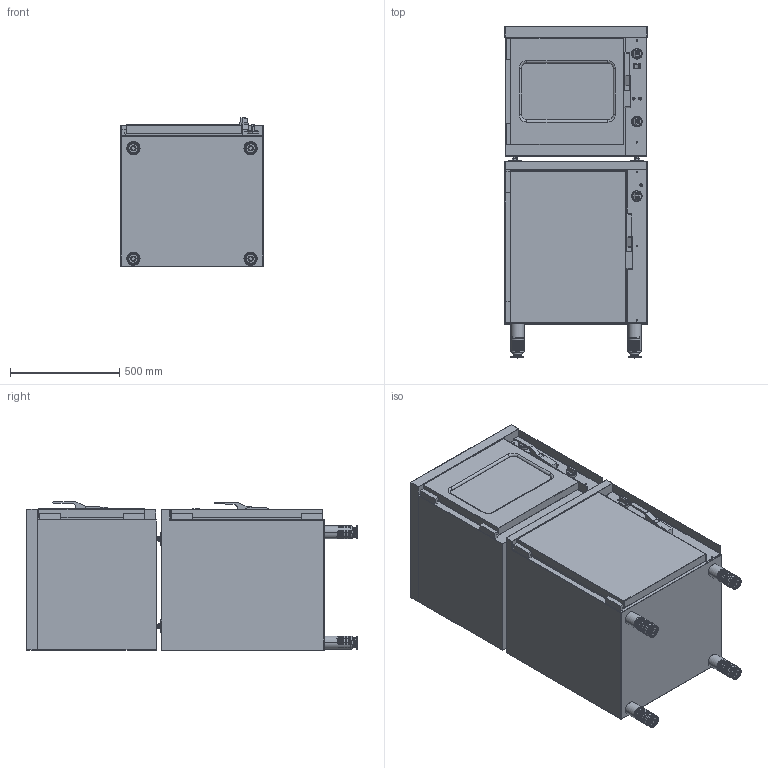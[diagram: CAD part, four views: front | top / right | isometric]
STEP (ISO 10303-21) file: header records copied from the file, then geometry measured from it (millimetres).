
FILE_DESCRIPTION((''),'2;1');
FILE_NAME('CFE606CT_INV_CES_EXPORT_STEP_ASM','2018-01-25T11:46:26',('m.grapin'),(''),'CREO PARAMETRIC BY PTC INC, 2017260','CREO PARAMETRIC BY PTC INC, 2017260','');
FILE_SCHEMA(('AP203_CONFIGURATION_CONTROLLED_3D_DESIGN_OF_MECHANICAL_PARTS_AND_ASSEMBLIES_MIM_LF { 1 0 10303 403 2 1 2 }'));
Length unit declared in the file: millimetre
Products named in the file (16): 65141003; CFE606CT_INV_EXPORT_STEP; 65039165; MANETTE_AMB_SANS_COLLERETTE; BASCULEUR_AMB_EXPORT_DXF; 65129051; 65231007; 65490006; 65244010; 65290011; 90000125_ASM; 6532023POIGNEE; CES606_INV_SUPPORT_EXPORT_STEP; 65141002; 65039168; CFE606CT_INV_CES_EXPORT_STEP_ASM
Assembly tree (27 placements, depth 3):
  CFE606CT_INV_CES_EXPORT_STEP_ASM
    65141003  x4
    CFE606CT_INV_EXPORT_STEP
    65039165
    MANETTE_AMB_SANS_COLLERETTE  x3
    BASCULEUR_AMB_EXPORT_DXF
    90000125_ASM  x3
      65129051
      65231007
      65490006
      65244010
      65290011
    6532023POIGNEE  x2
    CES606_INV_SUPPORT_EXPORT_STEP
    65141002  x4
    65039168
Bounding box: 650 x 1517 x 679.53 mm (x, y, z)
Volume: 552102304.5 mm3; surface area: 6201549.6 mm2
Topology: 36 solids, 44 shells, 1779 faces, 4035 edges, 2557 vertices
Faces by surface type: plane 735, cylinder 731, cone 156, sphere 57, torus 52, bspline 48
Entity records: 31563 total; most frequent: CARTESIAN_POINT 6235, DIRECTION 4022, ORIENTED_EDGE 3430, EDGE_CURVE 1717, AXIS2_PLACEMENT_3D 1543, VERTEX_POINT 1077, EDGE_LOOP 900, VECTOR 889
